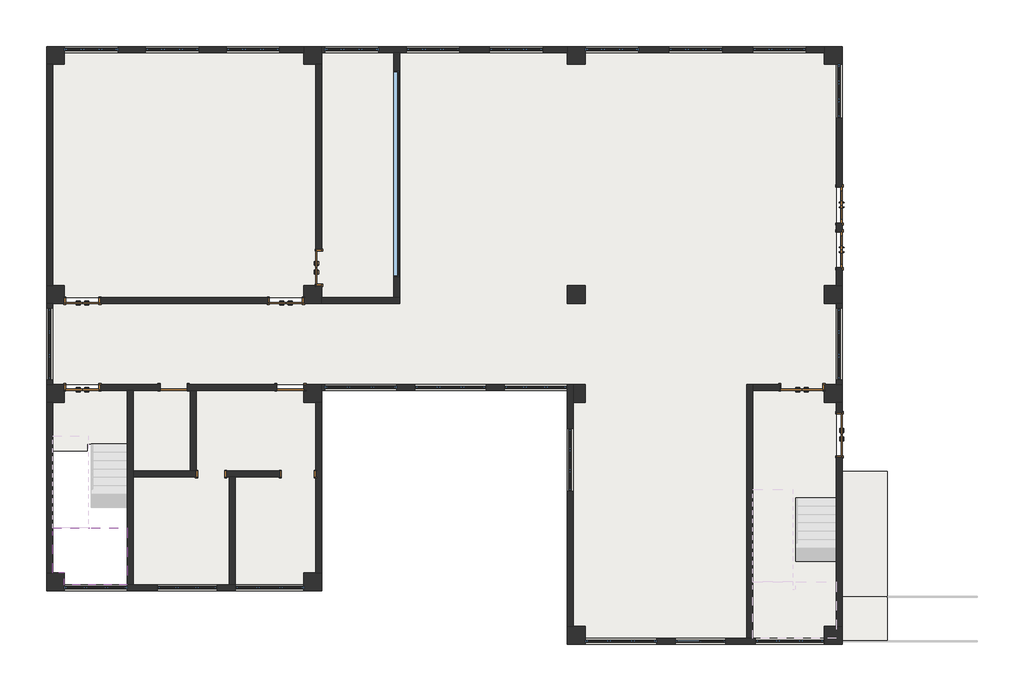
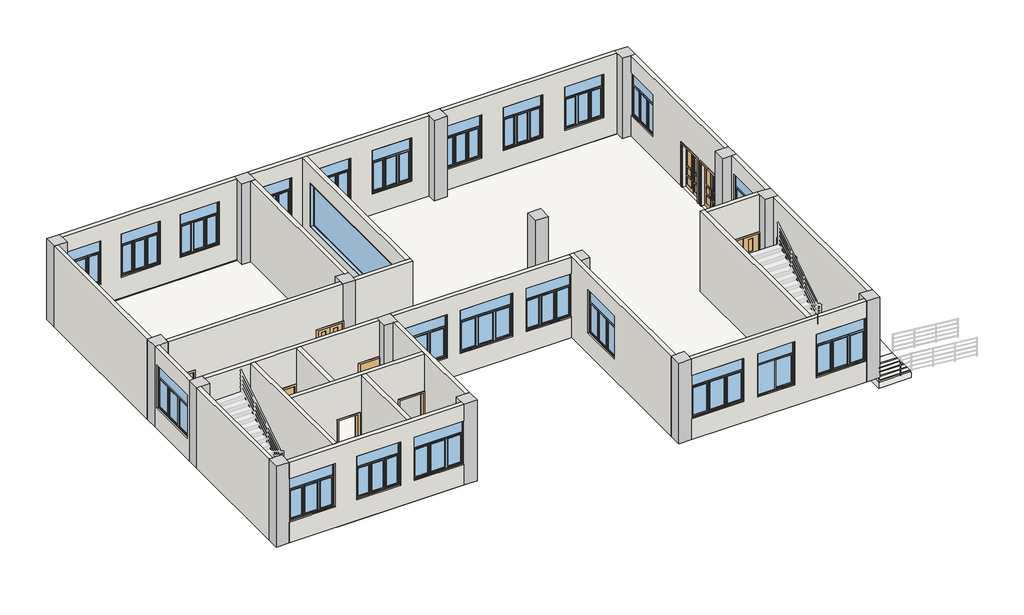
# One storey, part 1 of 5: 25 walls, 23 windows, 16 columns, 12 doors, 7 slabs.
"""IFC4 building model written with IfcOpenShell, lengths in millimetres."""

from ifc_helpers import new_model, si_unit, frame, origin, place, context, project, spatial, polyline, outline, extrude, faceted_brep, transform, mapped, element, save
from components import column_600x600_8ff94cf4, dk1021_b80b9dc6, dk1221_57ae5517, fm1221_e838069c, fm1521_f2745f28, m0921_bb00f214, m1221_b3a166ca, m1221_025b83c5, c1721_525d0301, c1821_f95a3a67, c2021_733b1f83, c2121_4e8fcc55, c2321_a531f027, c2421_0f87a412, c6921_e650829c

model = new_model("IFC4")

# Units and contexts
model_context = context("Model", 3, world=origin())
ifc_project = project(units=[si_unit("LENGTHUNIT", "METRE", prefix="MILLI")], contexts=[model_context])

# Site, building, storey
site = spatial("IfcSite", under=ifc_project)
building = spatial("IfcBuilding", under=site)
storey = spatial("IfcBuildingStorey", under=building, Name="标高 3", Elevation=3200.0)

# Columns
placement = place(None, origin())
column_600x600_shape = column_600x600_8ff94cf4(model_context)
element("IfcColumn", 1, ObjectType="混凝土 - 矩形 - 柱 : 600x600", at=placement, inside=storey, context=model_context, shape_type="MappedRepresentation", body=[
    mapped(column_600x600_shape, transform((-12381.7675258, -8436.6725016, 0.0), x_axis=(1.0, 0.0, 0.0), y_axis=(0.0, 1.0, 0.0), z_axis=(0.0, 0.0, 1.0))),
])
element("IfcColumn", 2, ObjectType="混凝土 - 矩形 - 柱 : 600x600", at=placement, inside=storey, context=model_context, shape_type="MappedRepresentation", body=[
    mapped(column_600x600_shape, transform((-12381.7675258, -2136.6725016, 0.0), x_axis=(1.0, 0.0, 0.0), y_axis=(0.0, 1.0, 0.0), z_axis=(0.0, 0.0, 1.0))),
])
element("IfcColumn", 3, ObjectType="混凝土 - 矩形 - 柱 : 600x600", at=placement, inside=storey, context=model_context, shape_type="MappedRepresentation", body=[
    mapped(column_600x600_shape, transform((-12381.7675258, 1163.3274984, 0.0), x_axis=(1.0, 0.0, 0.0), y_axis=(0.0, 1.0, 0.0), z_axis=(0.0, 0.0, 1.0))),
])
element("IfcColumn", 4, ObjectType="混凝土 - 矩形 - 柱 : 600x600", at=placement, inside=storey, context=model_context, shape_type="MappedRepresentation", body=[
    mapped(column_600x600_shape, transform((-12381.7675258, 9163.3274984, 0.0), x_axis=(1.0, 0.0, 0.0), y_axis=(0.0, 1.0, 0.0), z_axis=(0.0, 0.0, 1.0))),
])
element("IfcColumn", 5, ObjectType="混凝土 - 矩形 - 柱 : 600x600", at=placement, inside=storey, context=model_context, shape_type="MappedRepresentation", body=[
    mapped(column_600x600_shape, transform((-3781.7675258, -8436.6725016, 0.0), x_axis=(1.0, 0.0, 0.0), y_axis=(0.0, 1.0, 0.0), z_axis=(0.0, 0.0, 1.0))),
])
element("IfcColumn", 6, ObjectType="混凝土 - 矩形 - 柱 : 600x600", at=placement, inside=storey, context=model_context, shape_type="MappedRepresentation", body=[
    mapped(column_600x600_shape, transform((-3781.7675258, -2136.6725016, 0.0), x_axis=(1.0, 0.0, 0.0), y_axis=(0.0, 1.0, 0.0), z_axis=(0.0, 0.0, 1.0))),
])
element("IfcColumn", 7, ObjectType="混凝土 - 矩形 - 柱 : 600x600", at=placement, inside=storey, context=model_context, shape_type="MappedRepresentation", body=[
    mapped(column_600x600_shape, transform((-3781.7675258, 1163.3274984, 0.0), x_axis=(1.0, 0.0, 0.0), y_axis=(0.0, 1.0, 0.0), z_axis=(0.0, 0.0, 1.0))),
])
element("IfcColumn", 8, ObjectType="混凝土 - 矩形 - 柱 : 600x600", at=placement, inside=storey, context=model_context, shape_type="MappedRepresentation", body=[
    mapped(column_600x600_shape, transform((-3781.7675258, 9163.3274984, 0.0), x_axis=(1.0, 0.0, 0.0), y_axis=(0.0, 1.0, 0.0), z_axis=(0.0, 0.0, 1.0))),
])
element("IfcColumn", 9, ObjectType="混凝土 - 矩形 - 柱 : 600x600", at=placement, inside=storey, context=model_context, shape_type="MappedRepresentation", body=[
    mapped(column_600x600_shape, transform((5018.2324742, -10236.6725016, 0.0), x_axis=(1.0, 0.0, 0.0), y_axis=(0.0, 1.0, 0.0), z_axis=(0.0, 0.0, 1.0))),
])
element("IfcColumn", 10, ObjectType="混凝土 - 矩形 - 柱 : 600x600", at=placement, inside=storey, context=model_context, shape_type="MappedRepresentation", body=[
    mapped(column_600x600_shape, transform((5018.2324742, -2136.6725016, 0.0), x_axis=(1.0, 0.0, 0.0), y_axis=(0.0, 1.0, 0.0), z_axis=(0.0, 0.0, 1.0))),
])
element("IfcColumn", 11, ObjectType="混凝土 - 矩形 - 柱 : 600x600", at=placement, inside=storey, context=model_context, shape_type="MappedRepresentation", body=[
    mapped(column_600x600_shape, transform((5018.2324742, 1163.3274984, 0.0), x_axis=(1.0, 0.0, 0.0), y_axis=(0.0, 1.0, 0.0), z_axis=(0.0, 0.0, 1.0))),
])
element("IfcColumn", 12, ObjectType="混凝土 - 矩形 - 柱 : 600x600", at=placement, inside=storey, context=model_context, shape_type="MappedRepresentation", body=[
    mapped(column_600x600_shape, transform((5018.2324742, 9163.3274984, 0.0), x_axis=(1.0, 0.0, 0.0), y_axis=(0.0, 1.0, 0.0), z_axis=(0.0, 0.0, 1.0))),
])
element("IfcColumn", 13, ObjectType="混凝土 - 矩形 - 柱 : 600x600", at=placement, inside=storey, context=model_context, shape_type="MappedRepresentation", body=[
    mapped(column_600x600_shape, transform((13618.2324742, -10236.6725016, 0.0), x_axis=(1.0, 0.0, 0.0), y_axis=(0.0, 1.0, 0.0), z_axis=(0.0, 0.0, 1.0))),
])
element("IfcColumn", 14, ObjectType="混凝土 - 矩形 - 柱 : 600x600", at=placement, inside=storey, context=model_context, shape_type="MappedRepresentation", body=[
    mapped(column_600x600_shape, transform((13618.2324742, -2136.6725016, 0.0), x_axis=(1.0, 0.0, 0.0), y_axis=(0.0, 1.0, 0.0), z_axis=(0.0, 0.0, 1.0))),
])
element("IfcColumn", 15, ObjectType="混凝土 - 矩形 - 柱 : 600x600", at=placement, inside=storey, context=model_context, shape_type="MappedRepresentation", body=[
    mapped(column_600x600_shape, transform((13618.2324742, 1163.3274984, 0.0), x_axis=(1.0, 0.0, 0.0), y_axis=(0.0, 1.0, 0.0), z_axis=(0.0, 0.0, 1.0))),
])
element("IfcColumn", 16, ObjectType="混凝土 - 矩形 - 柱 : 600x600", at=placement, inside=storey, context=model_context, shape_type="MappedRepresentation", body=[
    mapped(column_600x600_shape, transform((13618.2324742, 9163.3274984, 0.0), x_axis=(1.0, 0.0, 0.0), y_axis=(0.0, 1.0, 0.0), z_axis=(0.0, 0.0, 1.0))),
])

# Doors
dk1021_shape = dk1021_b80b9dc6(model_context)
element("IfcDoor", 17, ObjectType="门洞 : DK1021", at=placement, inside=storey, context=model_context, shape_type="MappedRepresentation", body=[
    mapped(dk1021_shape, transform((-7181.7675258, -4836.6725016, 3200.0), x_axis=(1.0, 0.0, 0.0), y_axis=(0.0, 1.0, 0.0), z_axis=(0.0, 0.0, 1.0))),
])
dk1221_shape = dk1221_57ae5517(model_context)
element("IfcDoor", 18, ObjectType="门洞 : DK1221", at=placement, inside=storey, context=model_context, shape_type="MappedRepresentation", body=[
    mapped(dk1221_shape, transform((-4281.7675258, -4836.6725016, 3200.0), x_axis=(1.0, 0.0, 0.0), y_axis=(0.0, 1.0, 0.0), z_axis=(0.0, 0.0, 1.0))),
])
fm1221_shape = fm1221_e838069c(model_context)
element("IfcDoor", 19, ObjectType="双扇防火门 : FM1221", at=placement, inside=storey, context=model_context, shape_type="MappedRepresentation", body=[
    mapped(fm1221_shape, transform((-11481.7675258, 963.3274984, 3200.0), x_axis=(-1.0, 0.0, 0.0), y_axis=(0.0, -1.0, 0.0), z_axis=(0.0, 0.0, 1.0))),
])
element("IfcDoor", 20, ObjectType="双扇防火门 : FM1221", at=placement, inside=storey, context=model_context, shape_type="MappedRepresentation", body=[
    mapped(fm1221_shape, transform((-4681.7675258, 963.3274984, 3200.0), x_axis=(-1.0, 0.0, 0.0), y_axis=(0.0, -1.0, 0.0), z_axis=(0.0, 0.0, 1.0))),
])
element("IfcDoor", 21, ObjectType="双扇防火门 : FM1221", at=placement, inside=storey, context=model_context, shape_type="MappedRepresentation", body=[
    mapped(fm1221_shape, transform((-3581.7675258, 2063.3274984, 3200.0), x_axis=(0.0, 1.0, 0.0), y_axis=(-1.0, 0.0, 0.0), z_axis=(0.0, 0.0, 1.0))),
])
element("IfcDoor", 22, ObjectType="双扇防火门 : FM1221", at=placement, inside=storey, context=model_context, shape_type="MappedRepresentation", body=[
    mapped(fm1221_shape, transform((-11481.7675258, -1936.6725016, 3200.0), x_axis=(-1.0, 0.0, 0.0), y_axis=(0.0, -1.0, 0.0), z_axis=(0.0, 0.0, 1.0))),
])
fm1521_shape = fm1521_f2745f28(model_context)
element("IfcDoor", 23, ObjectType="双扇防火门 : FM1521", at=placement, inside=storey, context=model_context, shape_type="MappedRepresentation", body=[
    mapped(fm1521_shape, transform((12568.2324742, -1936.6725016, 3200.0), x_axis=(-1.0, 0.0, 0.0), y_axis=(0.0, -1.0, 0.0), z_axis=(0.0, 0.0, 1.0))),
])
element("IfcDoor", 24, ObjectType="双扇防火门 : FM1521", at=placement, inside=storey, context=model_context, shape_type="MappedRepresentation", body=[
    mapped(fm1521_shape, transform((13818.2324742, -3526.6725016, 3200.0), x_axis=(0.0, -1.0, 0.0), y_axis=(1.0, 0.0, 0.0), z_axis=(0.0, 0.0, 1.0))),
])
m0921_shape = m0921_bb00f214(model_context)
element("IfcDoor", 25, ObjectType="单扇 - 与墙齐 : M0921", at=placement, inside=storey, context=model_context, shape_type="MappedRepresentation", body=[
    mapped(m0921_shape, transform((-8431.7675258, -1936.6725016, 3200.0), x_axis=(1.0, 0.0, 0.0), y_axis=(0.0, 1.0, 0.0), z_axis=(0.0, 0.0, 1.0))),
])
element("IfcDoor", 26, ObjectType="单扇 - 与墙齐 : M0921", at=placement, inside=storey, context=model_context, shape_type="MappedRepresentation", body=[
    mapped(m0921_shape, transform((-4531.7675258, -1936.6725016, 3200.0), x_axis=(1.0, 0.0, 0.0), y_axis=(0.0, 1.0, 0.0), z_axis=(0.0, 0.0, 1.0))),
])
m1221_shape = m1221_b3a166ca(model_context)
m1221_2_shape = m1221_025b83c5(model_context)
element("IfcDoor", 27, ObjectType="双面嵌板木门 2 : M1221", at=placement, inside=storey, context=model_context, shape_type="MappedRepresentation", body=[
    mapped(m1221_shape, transform((13818.2324742, 2663.3274984, 3200.0), x_axis=(0.0, -1.0, 0.0), y_axis=(1.0, 0.0, 0.0), z_axis=(0.0, 0.0, 1.0))),
    mapped(m1221_2_shape, transform((13818.2324742, 2663.3274984, 3200.0), x_axis=(0.0, -1.0, 0.0), y_axis=(1.0, 0.0, 0.0), z_axis=(0.0, 0.0, 1.0))),
])
element("IfcDoor", 28, ObjectType="双面嵌板木门 2 : M1221", at=placement, inside=storey, context=model_context, shape_type="MappedRepresentation", body=[
    mapped(m1221_shape, transform((13818.2324742, 4163.3274984, 3200.0), x_axis=(0.0, -1.0, 0.0), y_axis=(1.0, 0.0, 0.0), z_axis=(0.0, 0.0, 1.0))),
    mapped(m1221_2_shape, transform((13818.2324742, 4163.3274984, 3200.0), x_axis=(0.0, -1.0, 0.0), y_axis=(1.0, 0.0, 0.0), z_axis=(0.0, 0.0, 1.0))),
])

# Slabs
element("IfcSlab", 29, ObjectType="楼板-120", at=placement, inside=storey, context=model_context, shape_type="SweptSolid", body=[
    extrude(outline(polyline([(-12481.7675258, 9263.3274984), (-1081.7675258, 9263.3274984), (-1081.7675258, 1063.3274984), (-12481.7675258, 1063.3274984), (-12481.7675258, 9263.3274984)])), frame((0.0, 0.0, 3030.0), z_axis=(0.0, 0.0, 1.0), x_axis=(1.0, 0.0, 0.0)), (0.0, 0.0, 1.0), 120.0),
])
element("IfcSlab", 30, ObjectType="楼板-120", at=placement, inside=storey, context=model_context, shape_type="SweptSolid", body=[
    extrude(outline(polyline([(-3681.7675258, -2036.6725016), (-3681.7675258, -8536.6725016), (-9781.7675258, -8536.6725016), (-9781.7675258, -4936.6725016), (-7681.7675258, -4936.6725016), (-7681.7675258, -2036.6725016), (-3681.7675258, -2036.6725016)])), frame((0.0, 0.0, 3030.0), z_axis=(0.0, 0.0, 1.0), x_axis=(1.0, 0.0, 0.0)), (0.0, 0.0, 1.0), 120.0),
])
element("IfcSlab", 31, ObjectType="楼板-120", at=placement, inside=storey, context=model_context, shape_type="SweptSolid", body=[
    extrude(outline(polyline([(-881.7675258, 863.3274984), (-881.7675258, 9263.3274984), (13718.2324742, 9263.3274984), (13718.2324742, -10336.6725016), (4918.2324742, -10336.6725016), (4918.2324742, -1836.6725016), (-7881.7675258, -1836.6725016), (-7881.7675258, -4736.6725016), (-9781.7675258, -4736.6725016), (-9781.7675258, -1836.6725016), (-12481.7675258, -1836.6725016), (-12481.7675258, 863.3274984), (-881.7675258, 863.3274984)])), frame((0.0, 0.0, 3080.0), z_axis=(0.0, 0.0, 1.0), x_axis=(1.0, 0.0, 0.0)), (0.0, 0.0, 1.0), 120.0),
])
element("IfcSlab", 32, ObjectType="坡道 2", at=placement, inside=storey, context=model_context, shape_type="SweptSolid", body=[
    extrude(outline(polyline([(-8942.519554, 2600.0), (-8942.519554, 2900.0), (-4742.519554, 3200.0), (-4742.519554, 2900.0), (-8942.519554, 2600.0)])), frame((13918.2324742, 0.0, 0.0), z_axis=(1.0, 0.0, 0.0), x_axis=(0.0, 1.0, 0.0)), (0.0, 0.0, 1.0), 1500.0),
])
element("IfcSlab", 33, ObjectType="坡道 2", at=placement, inside=storey, context=model_context, shape_type="SweptSolid", body=[
    extrude(outline(polyline([(15418.2324742, -8942.519554), (15418.2324742, -10436.6725016), (13918.2324742, -10436.6725016), (13918.2324742, -8942.519554), (15418.2324742, -8942.519554)])), frame((0.0, 0.0, 2600.0), z_axis=(0.0, 0.0, 1.0), x_axis=(1.0, 0.0, 0.0)), (0.0, 0.0, 1.0), 300.0),
])
element("IfcSlab", 34, ObjectType="楼板-120", at=placement, inside=storey, context=model_context, shape_type="SweptSolid", body=[
    extrude(outline(polyline([(-9981.7675258, -3836.6725016), (-11327.1675258, -3836.6725016), (-11327.1675258, -4056.6725016), (-12481.7675258, -4056.6725016), (-12481.7675258, -2456.6725016), (-12136.3675258, -2456.6725016), (-12136.3675258, -2036.6725016), (-9981.7675258, -2036.6725016), (-9981.7675258, -3836.6725016)])), frame((0.0, 0.0, 3080.0), z_axis=(0.0, 0.0, 1.0), x_axis=(1.0, 0.0, 0.0)), (0.0, 0.0, 1.0), 120.0),
])
element("IfcSlab", 35, ObjectType="150", at=placement, inside=storey, context=model_context, shape_type="Brep", body=[
    faceted_brep([(-9981.7675258, -6636.6725016, 5150.0), (-11181.7675258, -6636.6725016, 5150.0), (-11281.7675258, -6636.6725016, 5150.0), (-12481.7675258, -6636.6725016, 5150.0), (-12481.7675258, -6886.1866952, 5150.0), (-12481.7675258, -8136.6725016, 5150.0), (-12081.7675258, -8136.6725016, 5150.0), (-12081.7675258, -8536.6725016, 5150.0), (-9981.7675258, -8536.6725016, 5150.0), (-9981.7675258, -6667.158308, 5150.0), (-12481.7675258, -8136.6725016, 4850.0), (-12081.7675258, -8136.6725016, 4850.0), (-12081.7675258, -8536.6725016, 4850.0), (-9981.7675258, -8536.6725016, 4850.0), (-9981.7675258, -6636.6725016, 4830.6989213), (-9981.7675258, -6636.6725016, 4972.7272727), (-9981.7675258, -6667.158308, 4850.0), (-12481.7675258, -6636.6725016, 5007.9716485), (-12481.7675258, -6886.1866952, 4850.0), (-11281.7675258, -6886.1866952, 4850.0), (-11281.7675258, -6636.6725016, 5007.9716485), (-11181.7675258, -6636.6725016, 4830.6989213), (-11181.7675258, -6636.6725016, 4850.0), (-11281.7675258, -6636.6725016, 4850.0), (-11181.7675258, -6667.158308, 4850.0)], [[[0, 1, 2, 3, 4, 5, 6, 7, 8, 9]], [[6, 5, 10, 11]], [[7, 6, 11, 12]], [[8, 7, 12, 13]], [[14, 15, 0, 9, 8, 13, 16]], [[3, 17, 18, 10, 5, 4]], [[19, 18, 17, 20]], [[1, 0, 15, 14, 21, 22]], [[2, 1, 22, 23, 20]], [[3, 2, 20, 17]], [[19, 23, 22, 24, 16, 13, 12, 11, 10, 18]], [[23, 19, 20]], [[16, 24, 21, 14]], [[24, 22, 21]]]),
])

# Walls
element("IfcWall", 36, ObjectType="Q-200", at=placement, inside=storey, context=model_context, shape_type="SweptSolid", body=[
    extrude(outline(polyline([(7100.0, -12081.7675258), (6300.0, -12081.7675258), (6300.0, -10281.7675258), (4200.0, -10281.7675258), (4200.0, -12081.7675258), (3200.0, -12081.7675258), (3200.0, -4081.7675258), (7100.0, -4081.7675258), (7100.0, -12081.7675258)]), holes=[polyline([(4200.0, -6681.7675258), (6300.0, -6681.7675258), (6300.0, -4881.7675258), (4200.0, -4881.7675258), (4200.0, -6681.7675258)]), polyline([(4200.0, -9381.7675258), (6300.0, -9381.7675258), (6300.0, -7581.7675258), (4200.0, -7581.7675258), (4200.0, -9381.7675258)])]), frame((0.0, 9263.3274984, 0.0), z_axis=(0.0, 1.0, 0.0), x_axis=(0.0, 0.0, 1.0)), (0.0, 0.0, 1.0), 200.0),
])
element("IfcWall", 37, ObjectType="Q-200", at=placement, inside=storey, context=model_context, shape_type="Brep", body=[
    faceted_brep([(-3481.7675258, 9263.3274984, 3200.0), (-1081.7675258, 9263.3274984, 3200.0), (-881.7675258, 9263.3274984, 3200.0), (4718.2324742, 9263.3274984, 3200.0), (4718.2324742, 9263.3274984, 7100.0), (-881.7675258, 9263.3274984, 7100.0), (-1081.7675258, 9263.3274984, 7100.0), (-3481.7675258, 9263.3274984, 7100.0), (2118.2324742, 9263.3274984, 4200.0), (2118.2324742, 9263.3274984, 6300.0), (3918.2324742, 9263.3274984, 6300.0), (3918.2324742, 9263.3274984, 4200.0), (-661.7675258, 9263.3274984, 4200.0), (-661.7675258, 9263.3274984, 6300.0), (1138.2324742, 9263.3274984, 6300.0), (1138.2324742, 9263.3274984, 4200.0), (-3381.7675258, 9263.3274984, 4200.0), (-3381.7675258, 9263.3274984, 6300.0), (-1581.7675258, 9263.3274984, 6300.0), (-1581.7675258, 9263.3274984, 4200.0), (-3481.7675258, 9463.3274984, 3200.0), (-3481.7675258, 9463.3274984, 7100.0), (4718.2324742, 9463.3274984, 7100.0), (4718.2324742, 9463.3274984, 3200.0), (2118.2324742, 9463.3274984, 4200.0), (3918.2324742, 9463.3274984, 4200.0), (3918.2324742, 9463.3274984, 6300.0), (2118.2324742, 9463.3274984, 6300.0), (-661.7675258, 9463.3274984, 4200.0), (1138.2324742, 9463.3274984, 4200.0), (1138.2324742, 9463.3274984, 6300.0), (-661.7675258, 9463.3274984, 6300.0), (-3381.7675258, 9463.3274984, 4200.0), (-1581.7675258, 9463.3274984, 4200.0), (-1581.7675258, 9463.3274984, 6300.0), (-3381.7675258, 9463.3274984, 6300.0)], [[[0, 1, 2, 3, 4, 5, 6, 7], [8, 9, 10, 11], [12, 13, 14, 15], [16, 17, 18, 19]], [[20, 21, 22, 23], [24, 25, 26, 27], [28, 29, 30, 31], [32, 33, 34, 35]], [[3, 2, 1, 0, 20, 23]], [[4, 3, 23, 22]], [[7, 6, 5, 4, 22, 21]], [[0, 7, 21, 20]], [[9, 8, 24, 27]], [[10, 9, 27, 26]], [[11, 10, 26, 25]], [[8, 11, 25, 24]], [[13, 12, 28, 31]], [[14, 13, 31, 30]], [[15, 14, 30, 29]], [[12, 15, 29, 28]], [[17, 16, 32, 35]], [[18, 17, 35, 34]], [[19, 18, 34, 33]], [[16, 19, 33, 32]]]),
])
element("IfcWall", 38, ObjectType="Q-200", at=placement, inside=storey, context=model_context, shape_type="SweptSolid", body=[
    extrude(outline(polyline([(3200.0, 5318.2324742), (3200.0, 13318.2324742), (7100.0, 13318.2324742), (7100.0, 5318.2324742), (6300.0, 5318.2324742), (6300.0, 7118.2324742), (4200.0, 7118.2324742), (4200.0, 5318.2324742), (3200.0, 5318.2324742)]), holes=[polyline([(4200.0, 10918.2324742), (6300.0, 10918.2324742), (6300.0, 12718.2324742), (4200.0, 12718.2324742), (4200.0, 10918.2324742)]), polyline([(4200.0, 8118.2324742), (6300.0, 8118.2324742), (6300.0, 9918.2324742), (4200.0, 9918.2324742), (4200.0, 8118.2324742)])]), frame((0.0, 9263.3274984, 0.0), z_axis=(0.0, 1.0, 0.0), x_axis=(0.0, 0.0, 1.0)), (0.0, 0.0, 1.0), 200.0),
])
element("IfcWall", 39, ObjectType="Q-200", at=placement, inside=storey, context=model_context, shape_type="SweptSolid", body=[
    extrude(outline(polyline([(8863.3274984, 7100.0), (8863.3274984, 6300.0), (7063.3274984, 6300.0), (7063.3274984, 4200.0), (8863.3274984, 4200.0), (8863.3274984, 3200.0), (4763.3274984, 3200.0), (4763.3274984, 5300.0), (3563.3274984, 5300.0), (3563.3274984, 3200.0), (3263.3274984, 3200.0), (3263.3274984, 5300.0), (2063.3274984, 5300.0), (2063.3274984, 3200.0), (1463.3274984, 3200.0), (1463.3274984, 7100.0), (8863.3274984, 7100.0)])), frame((13718.2324742, 0.0, 0.0), z_axis=(1.0, 0.0, 0.0), x_axis=(0.0, 1.0, 0.0)), (0.0, 0.0, 1.0), 200.0),
])
element("IfcWall", 40, ObjectType="Q-200", at=placement, inside=storey, context=model_context, shape_type="SweptSolid", body=[
    extrude(outline(polyline([(863.3274984, 3200.0), (-1836.6725016, 3200.0), (-1836.6725016, 7100.0), (863.3274984, 7100.0), (863.3274984, 3200.0)]), holes=[polyline([(713.3274984, 4200.0), (713.3274984, 6300.0), (-1686.6725016, 6300.0), (-1686.6725016, 4200.0), (713.3274984, 4200.0)])]), frame((13718.2324742, 0.0, 0.0), z_axis=(1.0, 0.0, 0.0), x_axis=(0.0, 1.0, 0.0)), (0.0, 0.0, 1.0), 200.0),
])
element("IfcWall", 41, ObjectType="Q-200", at=placement, inside=storey, context=model_context, shape_type="SweptSolid", body=[
    extrude(outline(polyline([(-9936.6725016, 3200.0), (-9936.6725016, 7100.0), (-2436.6725016, 7100.0), (-2436.6725016, 3200.0), (-2776.6725016, 3200.0), (-2776.6725016, 5300.0), (-4276.6725016, 5300.0), (-4276.6725016, 3200.0), (-9936.6725016, 3200.0)])), frame((13718.2324742, 0.0, 0.0), z_axis=(1.0, 0.0, 0.0), x_axis=(0.0, 1.0, 0.0)), (0.0, 0.0, 1.0), 200.0),
])
element("IfcWall", 42, ObjectType="Q-200", at=placement, inside=storey, context=model_context, shape_type="Brep", body=[
    faceted_brep([(5318.2324742, -10336.6725016, 3200.0), (5318.2324742, -10336.6725016, 4200.0), (7718.2324742, -10336.6725016, 4200.0), (7718.2324742, -10336.6725016, 6300.0), (5318.2324742, -10336.6725016, 6300.0), (5318.2324742, -10336.6725016, 7100.0), (10718.2324742, -10336.6725016, 7100.0), (10918.2324742, -10336.6725016, 7100.0), (13318.2324742, -10336.6725016, 7100.0), (13318.2324742, -10336.6725016, 3200.0), (10918.2324742, -10336.6725016, 3200.0), (10718.2324742, -10336.6725016, 3200.0), (13308.2324742, -10336.6725016, 4200.0), (13308.2324742, -10336.6725016, 6300.0), (11008.2324742, -10336.6725016, 6300.0), (11008.2324742, -10336.6725016, 4200.0), (10028.2324742, -10336.6725016, 4200.0), (10028.2324742, -10336.6725016, 6300.0), (8328.2324742, -10336.6725016, 6300.0), (8328.2324742, -10336.6725016, 4200.0), (7718.2324742, -10536.6725016, 4200.0), (5318.2324742, -10536.6725016, 4200.0), (5318.2324742, -10536.6725016, 3200.0), (13318.2324742, -10536.6725016, 3200.0), (13318.2324742, -10536.6725016, 7100.0), (5318.2324742, -10536.6725016, 7100.0), (5318.2324742, -10536.6725016, 6300.0), (7718.2324742, -10536.6725016, 6300.0), (13308.2324742, -10536.6725016, 4200.0), (11008.2324742, -10536.6725016, 4200.0), (11008.2324742, -10536.6725016, 6300.0), (13308.2324742, -10536.6725016, 6300.0), (10028.2324742, -10536.6725016, 4200.0), (8328.2324742, -10536.6725016, 4200.0), (8328.2324742, -10536.6725016, 6300.0), (10028.2324742, -10536.6725016, 6300.0)], [[[0, 1, 2, 3, 4, 5, 6, 7, 8, 9, 10, 11], [12, 13, 14, 15], [16, 17, 18, 19]], [[20, 21, 22, 23, 24, 25, 26, 27], [28, 29, 30, 31], [32, 33, 34, 35]], [[0, 11, 10, 9, 23, 22]], [[26, 25, 5, 4]], [[22, 21, 1, 0]], [[8, 7, 6, 5, 25, 24]], [[9, 8, 24, 23]], [[3, 2, 20, 27]], [[4, 3, 27, 26]], [[2, 1, 21, 20]], [[13, 12, 28, 31]], [[14, 13, 31, 30]], [[15, 14, 30, 29]], [[12, 15, 29, 28]], [[17, 16, 32, 35]], [[18, 17, 35, 34]], [[19, 18, 34, 33]], [[16, 19, 33, 32]]]),
])
element("IfcWall", 43, ObjectType="Q-200", at=placement, inside=storey, context=model_context, shape_type="Brep", body=[
    faceted_brep([(4918.2324742, -9936.6725016, 3200.0), (4918.2324742, -1836.6725016, 3200.0), (4918.2324742, -1836.6725016, 7100.0), (4918.2324742, -9936.6725016, 7100.0), (4918.2324742, -3316.6725016, 4200.0), (4918.2324742, -5416.6725016, 4200.0), (4918.2324742, -5416.6725016, 6300.0), (4918.2324742, -3316.6725016, 6300.0), (4718.2324742, -9936.6725016, 3200.0), (4718.2324742, -9936.6725016, 7100.0), (4718.2324742, -2036.6725016, 7100.0), (4718.2324742, -1836.6725016, 7100.0), (4718.2324742, -1836.6725016, 6200.0), (4718.2324742, -1836.6725016, 4100.0), (4718.2324742, -1836.6725016, 3200.0), (4718.2324742, -2036.6725016, 3200.0), (4718.2324742, -3316.6725016, 4200.0), (4718.2324742, -3316.6725016, 6300.0), (4718.2324742, -5416.6725016, 6300.0), (4718.2324742, -5416.6725016, 4200.0)], [[[0, 1, 2, 3], [4, 5, 6, 7]], [[8, 9, 10, 11, 12, 13, 14, 15], [16, 17, 18, 19]], [[1, 0, 8, 15, 14]], [[3, 2, 11, 10, 9]], [[0, 3, 9, 8]], [[2, 1, 14, 13, 12, 11]], [[17, 16, 4, 7]], [[18, 17, 7, 6]], [[19, 18, 6, 5]], [[16, 19, 5, 4]]]),
])
element("IfcWall", 44, ObjectType="Q-200", at=placement, inside=storey, context=model_context, shape_type="SweptSolid", body=[
    extrude(outline(polyline([(3200.0, 4718.2324742), (4200.0, 4718.2324742), (4200.0, 2618.2324742), (6300.0, 2618.2324742), (6300.0, 4718.2324742), (7100.0, 4718.2324742), (7100.0, -3481.7675258), (3200.0, -3481.7675258), (3200.0, 4718.2324742)]), holes=[polyline([(4200.0, -981.7675258), (4200.0, -3381.7675258), (6300.0, -3381.7675258), (6300.0, -981.7675258), (4200.0, -981.7675258)]), polyline([(4200.0, -381.7675258), (6300.0, -381.7675258), (6300.0, 2018.2324742), (4200.0, 2018.2324742), (4200.0, -381.7675258)])]), frame((0.0, -2036.6725016, 0.0), z_axis=(0.0, 1.0, 0.0), x_axis=(0.0, 0.0, 1.0)), (0.0, 0.0, 1.0), 200.0),
])
element("IfcWall", 45, ObjectType="Q-200", at=placement, inside=storey, context=model_context, shape_type="Brep", body=[
    faceted_brep([(-3681.7675258, -2436.6725016, 3200.0), (-3681.7675258, -4736.6725016, 3200.0), (-3681.7675258, -4936.6725016, 3200.0), (-3681.7675258, -8136.6725016, 3200.0), (-3681.7675258, -8136.6725016, 7100.0), (-3681.7675258, -4936.6725016, 7100.0), (-3681.7675258, -4736.6725016, 7100.0), (-3681.7675258, -2436.6725016, 7100.0), (-3481.7675258, -2436.6725016, 3200.0), (-3481.7675258, -2436.6725016, 7100.0), (-3481.7675258, -8136.6725016, 7100.0), (-3481.7675258, -8136.6725016, 3200.0)], [[[0, 1, 2, 3, 4, 5, 6, 7]], [[8, 9, 10, 11]], [[3, 2, 1, 0, 8, 11]], [[4, 3, 11, 10]], [[7, 6, 5, 4, 10, 9]], [[0, 7, 9, 8]]]),
])
element("IfcWall", 46, ObjectType="Q-200", at=placement, inside=storey, context=model_context, shape_type="Brep", body=[
    faceted_brep([(-12081.7675258, -8536.6725016, 3200.0), (-12081.7675258, -8536.6725016, 4200.0), (-9981.7675258, -8536.6725016, 4200.0), (-9981.7675258, -8536.6725016, 6300.0), (-12081.7675258, -8536.6725016, 6300.0), (-12081.7675258, -8536.6725016, 7100.0), (-9981.7675258, -8536.6725016, 7100.0), (-9781.7675258, -8536.6725016, 7100.0), (-6581.7675258, -8536.6725016, 7100.0), (-6381.7675258, -8536.6725016, 7100.0), (-4081.7675258, -8536.6725016, 7100.0), (-4081.7675258, -8536.6725016, 6300.0), (-6373.5634478, -8536.6725016, 6300.0), (-6373.5634478, -8536.6725016, 4200.0), (-4081.7675258, -8536.6725016, 4200.0), (-4081.7675258, -8536.6725016, 3200.0), (-6381.7675258, -8536.6725016, 3200.0), (-6581.7675258, -8536.6725016, 3200.0), (-9781.7675258, -8536.6725016, 3200.0), (-9981.7675258, -8536.6725016, 3200.0), (-6981.7675258, -8536.6725016, 4200.0), (-6981.7675258, -8536.6725016, 6300.0), (-8981.7675258, -8536.6725016, 6300.0), (-8981.7675258, -8536.6725016, 4200.0), (-9981.7675258, -8736.6725016, 4200.0), (-12081.7675258, -8736.6725016, 4200.0), (-12081.7675258, -8736.6725016, 3200.0), (-4081.7675258, -8736.6725016, 3200.0), (-4081.7675258, -8736.6725016, 4200.0), (-6373.5634478, -8736.6725016, 4200.0), (-6373.5634478, -8736.6725016, 6300.0), (-4081.7675258, -8736.6725016, 6300.0), (-4081.7675258, -8736.6725016, 7100.0), (-12081.7675258, -8736.6725016, 7100.0), (-12081.7675258, -8736.6725016, 6300.0), (-9981.7675258, -8736.6725016, 6300.0), (-6981.7675258, -8736.6725016, 4200.0), (-8981.7675258, -8736.6725016, 4200.0), (-8981.7675258, -8736.6725016, 6300.0), (-6981.7675258, -8736.6725016, 6300.0)], [[[0, 1, 2, 3, 4, 5, 6, 7, 8, 9, 10, 11, 12, 13, 14, 15, 16, 17, 18, 19], [20, 21, 22, 23]], [[24, 25, 26, 27, 28, 29, 30, 31, 32, 33, 34, 35], [36, 37, 38, 39]], [[0, 19, 18, 17, 16, 15, 27, 26]], [[34, 33, 5, 4]], [[26, 25, 1, 0]], [[10, 9, 8, 7, 6, 5, 33, 32]], [[10, 32, 31, 11]], [[27, 15, 14, 28]], [[30, 12, 11, 31]], [[12, 30, 29, 13]], [[13, 29, 28, 14]], [[21, 20, 36, 39]], [[22, 21, 39, 38]], [[23, 22, 38, 37]], [[20, 23, 37, 36]], [[3, 2, 24, 35]], [[4, 3, 35, 34]], [[2, 1, 25, 24]]]),
])
element("IfcWall", 47, ObjectType="Q-200", at=placement, inside=storey, context=model_context, shape_type="SweptSolid", body=[
    extrude(outline(polyline([(-12481.7675258, -2436.6725016), (-12481.7675258, -8136.6725016), (-12681.7675258, -8136.6725016), (-12681.7675258, -2436.6725016), (-12481.7675258, -2436.6725016)])), frame((0.0, 0.0, 3200.0), z_axis=(0.0, 0.0, 1.0), x_axis=(1.0, 0.0, 0.0)), (0.0, 0.0, 1.0), 3900.0),
])
element("IfcWall", 48, ObjectType="Q-200", at=placement, inside=storey, context=model_context, shape_type="SweptSolid", body=[
    extrude(outline(polyline([(-1836.6725016, 3200.0), (-1836.6725016, 7100.0), (863.3274984, 7100.0), (863.3274984, 3200.0), (-1836.6725016, 3200.0)]), holes=[polyline([(713.3274984, 4200.0), (713.3274984, 6300.0), (-1686.6725016, 6300.0), (-1686.6725016, 4200.0), (713.3274984, 4200.0)])]), frame((-12681.7675258, 0.0, 0.0), z_axis=(1.0, 0.0, 0.0), x_axis=(0.0, 1.0, 0.0)), (0.0, 0.0, 1.0), 200.0),
])
element("IfcWall", 49, ObjectType="Q-200", at=placement, inside=storey, context=model_context, shape_type="SweptSolid", body=[
    extrude(outline(polyline([(-12481.7675258, 8863.3274984), (-12481.7675258, 1463.3274984), (-12681.7675258, 1463.3274984), (-12681.7675258, 8863.3274984), (-12481.7675258, 8863.3274984)])), frame((0.0, 0.0, 3200.0), z_axis=(0.0, 0.0, 1.0), x_axis=(1.0, 0.0, 0.0)), (0.0, 0.0, 1.0), 3900.0),
])
element("IfcWall", 50, ObjectType="Q-200", at=placement, inside=storey, context=model_context, shape_type="SweptSolid", body=[
    extrude(outline(polyline([(7100.0, -4081.7675258), (7100.0, -12081.7675258), (5300.0, -12081.7675258), (5300.0, -10881.7675258), (3200.0, -10881.7675258), (3200.0, -5281.7675258), (5300.0, -5281.7675258), (5300.0, -4081.7675258), (7100.0, -4081.7675258)])), frame((0.0, 863.3274984, 0.0), z_axis=(0.0, 1.0, 0.0), x_axis=(0.0, 0.0, 1.0)), (0.0, 0.0, 1.0), 200.0),
])
element("IfcWall", 51, ObjectType="Q-200", at=placement, inside=storey, context=model_context, shape_type="Brep", body=[
    faceted_brep([(-3481.7675258, 863.3274984, 3200.0), (-881.7675258, 863.3274984, 3200.0), (-881.7675258, 863.3274984, 7100.0), (-3481.7675258, 863.3274984, 7100.0), (-3481.7675258, 1063.3274984, 3200.0), (-3481.7675258, 1063.3274984, 7100.0), (-1081.7675258, 1063.3274984, 7100.0), (-881.7675258, 1063.3274984, 7100.0), (-881.7675258, 1063.3274984, 3200.0), (-1081.7675258, 1063.3274984, 3200.0)], [[[0, 1, 2, 3]], [[4, 5, 6, 7, 8, 9]], [[1, 0, 4, 9, 8]], [[3, 2, 7, 6, 5]], [[0, 3, 5, 4]], [[2, 1, 8, 7]]]),
])
element("IfcWall", 52, ObjectType="Q-200", at=placement, inside=storey, context=model_context, shape_type="SweptSolid", body=[
    extrude(outline(polyline([(1063.3274984, 3200.0), (1063.3274984, 7100.0), (9263.3274984, 7100.0), (9263.3274984, 3200.0), (1063.3274984, 3200.0)]), holes=[polyline([(8653.3274984, 4115.0), (8653.3274984, 6215.0), (1753.3274984, 6215.0), (1753.3274984, 4115.0), (8653.3274984, 4115.0)])]), frame((-1081.7675258, 0.0, 0.0), z_axis=(1.0, 0.0, 0.0), x_axis=(0.0, 1.0, 0.0)), (0.0, 0.0, 1.0), 200.0),
])
element("IfcWall", 53, ObjectType="Q-200", at=placement, inside=storey, context=model_context, shape_type="SweptSolid", body=[
    extrude(outline(polyline([(1463.3274984, 7100.0), (8863.3274984, 7100.0), (8863.3274984, 3200.0), (2663.3274984, 3200.0), (2663.3274984, 5300.0), (1463.3274984, 5300.0), (1463.3274984, 7100.0)])), frame((-3681.7675258, 0.0, 0.0), z_axis=(1.0, 0.0, 0.0), x_axis=(0.0, 1.0, 0.0)), (0.0, 0.0, 1.0), 200.0),
])
element("IfcWall", 54, ObjectType="Q-200", at=placement, inside=storey, context=model_context, shape_type="Brep", body=[
    faceted_brep([(-4081.7675258, -2036.6725016, 7100.0), (-7681.7675258, -2036.6725016, 7100.0), (-7881.7675258, -2036.6725016, 7100.0), (-9781.7675258, -2036.6725016, 7100.0), (-9981.7675258, -2036.6725016, 7100.0), (-12081.7675258, -2036.6725016, 7100.0), (-12081.7675258, -2036.6725016, 5300.0), (-10881.7675258, -2036.6725016, 5300.0), (-10881.7675258, -2036.6725016, 3200.0), (-9981.7675258, -2036.6725016, 3200.0), (-9781.7675258, -2036.6725016, 3200.0), (-8881.7675258, -2036.6725016, 3200.0), (-8881.7675258, -2036.6725016, 5300.0), (-7981.7675258, -2036.6725016, 5300.0), (-7981.7675258, -2036.6725016, 3200.0), (-7881.7675258, -2036.6725016, 3200.0), (-7681.7675258, -2036.6725016, 3200.0), (-4981.7675258, -2036.6725016, 3200.0), (-4981.7675258, -2036.6725016, 5300.0), (-4081.7675258, -2036.6725016, 5300.0), (-12081.7675258, -1836.6725016, 7100.0), (-4081.7675258, -1836.6725016, 7100.0), (-4081.7675258, -1836.6725016, 5300.0), (-4981.7675258, -1836.6725016, 5300.0), (-4981.7675258, -1836.6725016, 3200.0), (-7981.7675258, -1836.6725016, 3200.0), (-7981.7675258, -1836.6725016, 5300.0), (-8881.7675258, -1836.6725016, 5300.0), (-8881.7675258, -1836.6725016, 3200.0), (-10881.7675258, -1836.6725016, 3200.0), (-10881.7675258, -1836.6725016, 5300.0), (-12081.7675258, -1836.6725016, 5300.0)], [[[0, 1, 2, 3, 4, 5, 6, 7, 8, 9, 10, 11, 12, 13, 14, 15, 16, 17, 18, 19]], [[20, 21, 22, 23, 24, 25, 26, 27, 28, 29, 30, 31]], [[8, 29, 28, 11, 10, 9]], [[14, 25, 24, 17, 16, 15]], [[21, 0, 19, 22]], [[5, 4, 3, 2, 1, 0, 21, 20]], [[5, 20, 31, 6]], [[30, 7, 6, 31]], [[7, 30, 29, 8]], [[26, 25, 14, 13]], [[27, 26, 13, 12]], [[28, 27, 12, 11]], [[18, 23, 22, 19]], [[23, 18, 17, 24]]]),
])
element("IfcWall", 55, ObjectType="Q-200", at=placement, inside=storey, context=model_context, shape_type="Brep", body=[
    faceted_brep([(-9981.7675258, -2036.6725016, 3200.0), (-9981.7675258, -8536.6725016, 3200.0), (-9981.7675258, -8536.6725016, 7100.0), (-9981.7675258, -2036.6725016, 7100.0), (-9781.7675258, -2036.6725016, 3200.0), (-9781.7675258, -2036.6725016, 7100.0), (-9781.7675258, -4736.6725016, 7100.0), (-9781.7675258, -4936.6725016, 7100.0), (-9781.7675258, -8536.6725016, 7100.0), (-9781.7675258, -8536.6725016, 3200.0), (-9781.7675258, -4936.6725016, 3200.0), (-9781.7675258, -4736.6725016, 3200.0)], [[[0, 1, 2, 3]], [[4, 5, 6, 7, 8, 9, 10, 11]], [[1, 0, 4, 11, 10, 9]], [[3, 2, 8, 7, 6, 5]], [[2, 1, 9, 8]], [[0, 3, 5, 4]]]),
])
element("IfcWall", 56, ObjectType="Q-200", at=placement, inside=storey, context=model_context, shape_type="Brep", body=[
    faceted_brep([(-3681.7675258, -4936.6725016, 7100.0), (-6381.7675258, -4936.6725016, 7100.0), (-6581.7675258, -4936.6725016, 7100.0), (-9781.7675258, -4936.6725016, 7100.0), (-9781.7675258, -4936.6725016, 3200.0), (-7681.7675258, -4936.6725016, 3200.0), (-7681.7675258, -4936.6725016, 5300.0), (-6681.7675258, -4936.6725016, 5300.0), (-6681.7675258, -4936.6725016, 3200.0), (-6581.7675258, -4936.6725016, 3200.0), (-6381.7675258, -4936.6725016, 3200.0), (-4881.7675258, -4936.6725016, 3200.0), (-4881.7675258, -4936.6725016, 5300.0), (-3681.7675258, -4936.6725016, 5300.0), (-9781.7675258, -4736.6725016, 7100.0), (-7881.7675258, -4736.6725016, 7100.0), (-7681.7675258, -4736.6725016, 7100.0), (-3681.7675258, -4736.6725016, 7100.0), (-3681.7675258, -4736.6725016, 5300.0), (-4881.7675258, -4736.6725016, 5300.0), (-4881.7675258, -4736.6725016, 3200.0), (-6681.7675258, -4736.6725016, 3200.0), (-6681.7675258, -4736.6725016, 5300.0), (-7681.7675258, -4736.6725016, 5300.0), (-7681.7675258, -4736.6725016, 3200.0), (-7881.7675258, -4736.6725016, 3200.0), (-9781.7675258, -4736.6725016, 3200.0)], [[[0, 1, 2, 3, 4, 5, 6, 7, 8, 9, 10, 11, 12, 13]], [[14, 15, 16, 17, 18, 19, 20, 21, 22, 23, 24, 25, 26]], [[4, 26, 25, 24, 5]], [[20, 11, 10, 9, 8, 21]], [[3, 2, 1, 0, 17, 16, 15, 14]], [[4, 3, 14, 26]], [[17, 0, 13, 18]], [[12, 19, 18, 13]], [[19, 12, 11, 20]], [[7, 22, 21, 8]], [[22, 7, 6, 23]], [[23, 6, 5, 24]]]),
])
element("IfcWall", 57, ObjectType="Q-200", at=placement, inside=storey, context=model_context, shape_type="SweptSolid", body=[
    extrude(outline(polyline([(-7681.7675258, -2036.6725016), (-7681.7675258, -4736.6725016), (-7881.7675258, -4736.6725016), (-7881.7675258, -2036.6725016), (-7681.7675258, -2036.6725016)])), frame((0.0, 0.0, 3200.0), z_axis=(0.0, 0.0, 1.0), x_axis=(1.0, 0.0, 0.0)), (0.0, 0.0, 1.0), 3900.0),
])
element("IfcWall", 58, ObjectType="Q-200", at=placement, inside=storey, context=model_context, shape_type="SweptSolid", body=[
    extrude(outline(polyline([(-6381.7675258, -4936.6725016), (-6381.7675258, -8536.6725016), (-6581.7675258, -8536.6725016), (-6581.7675258, -4936.6725016), (-6381.7675258, -4936.6725016)])), frame((0.0, 0.0, 3200.0), z_axis=(0.0, 0.0, 1.0), x_axis=(1.0, 0.0, 0.0)), (0.0, 0.0, 1.0), 3900.0),
])
element("IfcWall", 59, ObjectType="Q-200", at=placement, inside=storey, context=model_context, shape_type="Brep", body=[
    faceted_brep([(10918.2324742, -10336.6725016, 3200.0), (10918.2324742, -2036.6725016, 3200.0), (10918.2324742, -1836.6725016, 3200.0), (10918.2324742, -1836.6725016, 7100.0), (10918.2324742, -2036.6725016, 7100.0), (10918.2324742, -10336.6725016, 7100.0), (10718.2324742, -10336.6725016, 3200.0), (10718.2324742, -10336.6725016, 7100.0), (10718.2324742, -1836.6725016, 7100.0), (10718.2324742, -1836.6725016, 3200.0)], [[[0, 1, 2, 3, 4, 5]], [[6, 7, 8, 9]], [[2, 1, 0, 6, 9]], [[5, 4, 3, 8, 7]], [[0, 5, 7, 6]], [[3, 2, 9, 8]]]),
])
element("IfcWall", 60, ObjectType="Q-200", at=placement, inside=storey, context=model_context, shape_type="SweptSolid", body=[
    extrude(outline(polyline([(7100.0, 13318.2324742), (7100.0, 10918.2324742), (3200.0, 10918.2324742), (3200.0, 11818.2324742), (5300.0, 11818.2324742), (5300.0, 13318.2324742), (7100.0, 13318.2324742)])), frame((0.0, -2036.6725016, 0.0), z_axis=(0.0, 1.0, 0.0), x_axis=(0.0, 0.0, 1.0)), (0.0, 0.0, 1.0), 200.0),
])

# Windows
c1721_shape = c1721_525d0301(model_context)
element("IfcWindow", 61, ObjectType="组合窗 - 双层单列(固定+推拉) : C1721", at=placement, inside=storey, context=model_context, shape_type="MappedRepresentation", body=[
    mapped(c1721_shape, transform((9178.2324742, -10436.6725016, 3300.0), x_axis=(-1.0, 0.0, 0.0), y_axis=(0.0, -1.0, 0.0), z_axis=(0.0, 0.0, 1.0))),
])
c1821_shape = c1821_f95a3a67(model_context)
element("IfcWindow", 62, ObjectType="组合窗 - 双层三列(三扇平开) - 上部单扇 : C1821", at=placement, inside=storey, context=model_context, shape_type="MappedRepresentation", body=[
    mapped(c1821_shape, transform((13818.2324742, 7963.3274984, 3200.0), x_axis=(0.0, -1.0, 0.0), y_axis=(1.0, 0.0, 0.0), z_axis=(0.0, 0.0, 1.0))),
])
element("IfcWindow", 63, ObjectType="组合窗 - 双层三列(三扇平开) - 上部单扇 : C1821", at=placement, inside=storey, context=model_context, shape_type="MappedRepresentation", body=[
    mapped(c1821_shape, transform((11818.2324742, 9363.3274984, 3200.0), x_axis=(1.0, 0.0, 0.0), y_axis=(0.0, 1.0, 0.0), z_axis=(0.0, 0.0, 1.0))),
])
element("IfcWindow", 64, ObjectType="组合窗 - 双层三列(三扇平开) - 上部单扇 : C1821", at=placement, inside=storey, context=model_context, shape_type="MappedRepresentation", body=[
    mapped(c1821_shape, transform((9018.2324742, 9363.3274984, 3200.0), x_axis=(1.0, 0.0, 0.0), y_axis=(0.0, 1.0, 0.0), z_axis=(0.0, 0.0, 1.0))),
])
element("IfcWindow", 65, ObjectType="组合窗 - 双层三列(三扇平开) - 上部单扇 : C1821", at=placement, inside=storey, context=model_context, shape_type="MappedRepresentation", body=[
    mapped(c1821_shape, transform((6218.2324742, 9363.3274984, 3200.0), x_axis=(1.0, 0.0, 0.0), y_axis=(0.0, 1.0, 0.0), z_axis=(0.0, 0.0, 1.0))),
])
element("IfcWindow", 66, ObjectType="组合窗 - 双层三列(三扇平开) - 上部单扇 : C1821", at=placement, inside=storey, context=model_context, shape_type="MappedRepresentation", body=[
    mapped(c1821_shape, transform((3018.2324742, 9363.3274984, 3200.0), x_axis=(1.0, 0.0, 0.0), y_axis=(0.0, 1.0, 0.0), z_axis=(0.0, 0.0, 1.0))),
])
element("IfcWindow", 67, ObjectType="组合窗 - 双层三列(三扇平开) - 上部单扇 : C1821", at=placement, inside=storey, context=model_context, shape_type="MappedRepresentation", body=[
    mapped(c1821_shape, transform((238.2324742, 9363.3274984, 3200.0), x_axis=(1.0, 0.0, 0.0), y_axis=(0.0, 1.0, 0.0), z_axis=(0.0, 0.0, 1.0))),
])
element("IfcWindow", 68, ObjectType="组合窗 - 双层三列(三扇平开) - 上部单扇 : C1821", at=placement, inside=storey, context=model_context, shape_type="MappedRepresentation", body=[
    mapped(c1821_shape, transform((-2481.7675258, 9363.3274984, 3200.0), x_axis=(1.0, 0.0, 0.0), y_axis=(0.0, 1.0, 0.0), z_axis=(0.0, 0.0, 1.0))),
])
element("IfcWindow", 69, ObjectType="组合窗 - 双层三列(三扇平开) - 上部单扇 : C1821", at=placement, inside=storey, context=model_context, shape_type="MappedRepresentation", body=[
    mapped(c1821_shape, transform((-5781.7675258, 9363.3274984, 3200.0), x_axis=(1.0, 0.0, 0.0), y_axis=(0.0, 1.0, 0.0), z_axis=(0.0, 0.0, 1.0))),
])
element("IfcWindow", 70, ObjectType="组合窗 - 双层三列(三扇平开) - 上部单扇 : C1821", at=placement, inside=storey, context=model_context, shape_type="MappedRepresentation", body=[
    mapped(c1821_shape, transform((-8481.7675258, 9363.3274984, 3200.0), x_axis=(1.0, 0.0, 0.0), y_axis=(0.0, 1.0, 0.0), z_axis=(0.0, 0.0, 1.0))),
])
element("IfcWindow", 71, ObjectType="组合窗 - 双层三列(三扇平开) - 上部单扇 : C1821", at=placement, inside=storey, context=model_context, shape_type="MappedRepresentation", body=[
    mapped(c1821_shape, transform((-11181.7675258, 9363.3274984, 3200.0), x_axis=(1.0, 0.0, 0.0), y_axis=(0.0, 1.0, 0.0), z_axis=(0.0, 0.0, 1.0))),
])
c2021_shape = c2021_733b1f83(model_context)
element("IfcWindow", 72, ObjectType="组合窗 - 双层三列(三扇平开) - 上部单扇 : C2021", at=placement, inside=storey, context=model_context, shape_type="MappedRepresentation", body=[
    mapped(c2021_shape, transform((-7981.7675258, -8636.6725016, 3300.0), x_axis=(-1.0, 0.0, 0.0), y_axis=(0.0, -1.0, 0.0), z_axis=(0.0, 0.0, 1.0))),
])
c2121_shape = c2121_4e8fcc55(model_context)
element("IfcWindow", 73, ObjectType="组合窗 - 双层三列(三扇平开) - 上部单扇 : C2121", at=placement, inside=storey, context=model_context, shape_type="MappedRepresentation", body=[
    mapped(c2121_shape, transform((-11031.7675258, -8636.6725016, 3300.0), x_axis=(-1.0, 0.0, 0.0), y_axis=(0.0, -1.0, 0.0), z_axis=(0.0, 0.0, 1.0))),
])
element("IfcWindow", 74, ObjectType="组合窗 - 双层三列(三扇平开) - 上部单扇 : C2121", at=placement, inside=storey, context=model_context, shape_type="MappedRepresentation", body=[
    mapped(c2121_shape, transform((3668.2324742, -1936.6725016, 3300.0), x_axis=(1.0, 0.0, 0.0), y_axis=(0.0, 1.0, 0.0), z_axis=(0.0, 0.0, 1.0))),
])
element("IfcWindow", 75, ObjectType="组合窗 - 双层三列(三扇平开) - 上部单扇 : C2121", at=placement, inside=storey, context=model_context, shape_type="MappedRepresentation", body=[
    mapped(c2121_shape, transform((4818.2324742, -4366.6725016, 3300.0), x_axis=(0.0, -1.0, 0.0), y_axis=(1.0, 0.0, 0.0), z_axis=(0.0, 0.0, 1.0))),
])
c2321_shape = c2321_a531f027(model_context)
element("IfcWindow", 76, ObjectType="组合窗 - 双层三列(三扇平开) - 上部单扇 : C2321", at=placement, inside=storey, context=model_context, shape_type="MappedRepresentation", body=[
    mapped(c2321_shape, transform((-5223.5634478, -8636.6725016, 3300.0), x_axis=(-1.0, 0.0, 0.0), y_axis=(0.0, -1.0, 0.0), z_axis=(0.0, 0.0, 1.0))),
])
element("IfcWindow", 77, ObjectType="组合窗 - 双层三列(三扇平开) - 上部单扇 : C2321", at=placement, inside=storey, context=model_context, shape_type="MappedRepresentation", body=[
    mapped(c2321_shape, transform((12158.2324742, -10436.6725016, 3300.0), x_axis=(-1.0, 0.0, 0.0), y_axis=(0.0, -1.0, 0.0), z_axis=(0.0, 0.0, 1.0))),
])
c2421_shape = c2421_0f87a412(model_context)
element("IfcWindow", 78, ObjectType="组合窗 - 双层三列(三扇平开) - 上部单扇 : C2421", at=placement, inside=storey, context=model_context, shape_type="MappedRepresentation", body=[
    mapped(c2421_shape, transform((-2181.7675258, -1936.6725016, 3200.0), x_axis=(-1.0, 0.0, 0.0), y_axis=(0.0, -1.0, 0.0), z_axis=(0.0, 0.0, 1.0))),
])
element("IfcWindow", 79, ObjectType="组合窗 - 双层三列(三扇平开) - 上部单扇 : C2421", at=placement, inside=storey, context=model_context, shape_type="MappedRepresentation", body=[
    mapped(c2421_shape, transform((818.2324742, -1936.6725016, 3200.0), x_axis=(1.0, 0.0, 0.0), y_axis=(0.0, 1.0, 0.0), z_axis=(0.0, 0.0, 1.0))),
])
element("IfcWindow", 80, ObjectType="组合窗 - 双层三列(三扇平开) - 上部单扇 : C2421", at=placement, inside=storey, context=model_context, shape_type="MappedRepresentation", body=[
    mapped(c2421_shape, transform((6518.2324742, -10436.6725016, 3200.0), x_axis=(-1.0, 0.0, 0.0), y_axis=(0.0, -1.0, 0.0), z_axis=(0.0, 0.0, 1.0))),
])
element("IfcWindow", 81, ObjectType="组合窗 - 双层三列(三扇平开) - 上部单扇 : C2421", at=placement, inside=storey, context=model_context, shape_type="MappedRepresentation", body=[
    mapped(c2421_shape, transform((13818.2324742, -486.6725016, 3200.0), x_axis=(0.0, -1.0, 0.0), y_axis=(1.0, 0.0, 0.0), z_axis=(0.0, 0.0, 1.0))),
])
element("IfcWindow", 82, ObjectType="组合窗 - 双层三列(三扇平开) - 上部单扇 : C2421", at=placement, inside=storey, context=model_context, shape_type="MappedRepresentation", body=[
    mapped(c2421_shape, transform((-12581.7675258, -486.6725016, 3200.0), x_axis=(0.0, -1.0, 0.0), y_axis=(1.0, 0.0, 0.0), z_axis=(0.0, 0.0, 1.0))),
])
c6921_shape = c6921_e650829c(model_context)
element("IfcWindow", 83, ObjectType="固定 : C6921", at=placement, inside=storey, context=model_context, shape_type="MappedRepresentation", body=[
    mapped(c6921_shape, transform((-994.7675258, 5203.3274984, 3200.0), x_axis=(0.0, -1.0, 0.0), y_axis=(1.0, 0.0, 0.0), z_axis=(0.0, 0.0, 1.0))),
])

save(model, "model.ifc")
